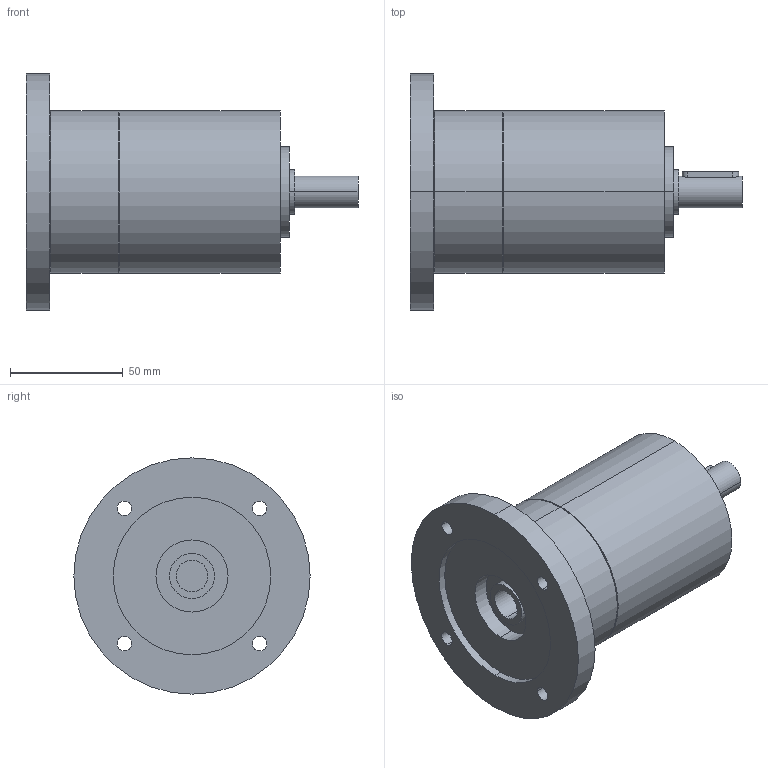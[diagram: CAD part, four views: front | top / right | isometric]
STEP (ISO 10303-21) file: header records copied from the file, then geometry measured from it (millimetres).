
FILE_DESCRIPTION(('CoCreate Modeling STEP Export'),'2;1');
FILE_NAME('GPT75_ig-9-12-16-20-25-28-35-40-50-70-100_14_B14T_14_P05.stp','2014-08-27T13:16:55',(''),(''),'CoCreate Modeling STEP processor for AP214 (Solid Model)','CoCreate Modeling 16.00C 25-Feb-2009 (C) Parametric Technology GmbH','');
FILE_SCHEMA(('AUTOMOTIVE_DESIGN { 1 0 10303 214 1 1 1 1 }'));
Length unit declared in the file: millimetre
Products named in the file (2): GPT75_ig-9-12-16-20-25-28-35-40-50-70-100_14_B14T_14_P05
Assembly tree (1 placements, depth 2):
  GPT75_ig-9-12-16-20-25-28-35-40-50-70-100_14_B14T_14_P05
    GPT75_ig-9-12-16-20-25-28-35-40-50-70-100_14_B14T_14_P05
Bounding box: 147.5 x 105 x 105 mm (x, y, z)
Volume: 493230.9 mm3; surface area: 50814.6 mm2
Topology: 1 solids, 1 shells, 63 faces, 150 edges, 103 vertices
Faces by surface type: cylinder 40, plane 19, cone 4
Entity records: 1954 total; most frequent: CARTESIAN_POINT 627, ORIENTED_EDGE 300, DIRECTION 222, EDGE_CURVE 150, VERTEX_POINT 103, AXIS2_PLACEMENT_3D 86, EDGE_LOOP 85, FACE_OUTER_BOUND 63
